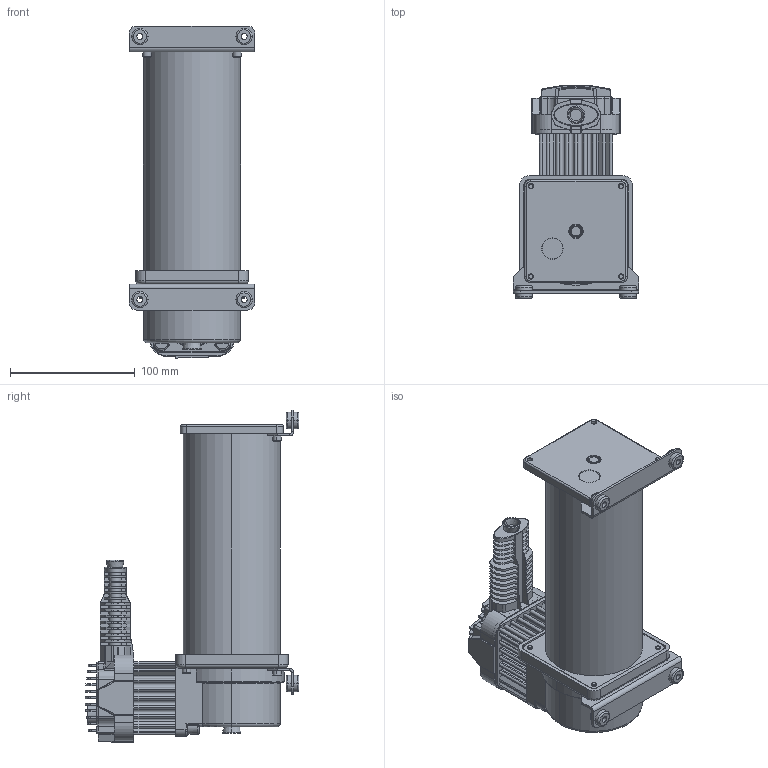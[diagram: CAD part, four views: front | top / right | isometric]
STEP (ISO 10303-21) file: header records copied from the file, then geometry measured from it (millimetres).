
FILE_DESCRIPTION (( 'STEP AP214' ), '1' );
FILE_NAME ('PLM-AP-LV-24VDC.STEP', '2015-11-05T14:40:32', ( '' ), ( '' ), 'SwSTEP 2.0', 'SolidWorks 2015', '' );
FILE_SCHEMA (( 'AUTOMOTIVE_DESIGN' ));
Length unit declared in the file: inch
Products named in the file (10): socket head cap screw_ai_HX-SHCS 0.164-32x0.5x0.5-S; socket head cap screw_ai_HX-SHCS 0.164-32x0.375x0.375-S; socket head cap screw_ai_HX-SHCS 0.125-44x0.125x0.125-N; flat washer type b regular_ai_Regular FW 0.125; PLM-AP-LV-24VDC Top; PLM-AP-LV-24VDC Front; PLM-AP-LV-24VDC Foot; PLM-AP-LV-24VDC Main Body; PLM-AP-LV-24VDC; socket head cap screw_ai_HX-SHCS 0.164-32x0.4375x0.4375-S
Assembly tree (19 placements, depth 2):
  PLM-AP-LV-24VDC
    PLM-AP-LV-24VDC Main Body
    PLM-AP-LV-24VDC Foot  x2
    PLM-AP-LV-24VDC Front
    PLM-AP-LV-24VDC Top
    flat washer type b regular_ai_Regular FW 0.125  x4
    socket head cap screw_ai_HX-SHCS 0.125-44x0.125x0.125-N  x4
    socket head cap screw_ai_HX-SHCS 0.164-32x0.375x0.375-S  x2
    socket head cap screw_ai_HX-SHCS 0.164-32x0.5x0.5-S  x2
    socket head cap screw_ai_HX-SHCS 0.164-32x0.4375x0.4375-S  x2
Bounding box: 100.33 x 171.41 x 266.12 mm (x, y, z)
Volume: 1502338.4 mm3; surface area: 182629 mm2
Topology: 29 solids, 29 shells, 1946 faces, 5082 edges, 3208 vertices
Faces by surface type: cylinder 683, plane 663, cone 404, torus 104, bspline 92
Entity records: 48662 total; most frequent: CARTESIAN_POINT 11252, DIRECTION 7933, ORIENTED_EDGE 7784, EDGE_CURVE 3892, AXIS2_PLACEMENT_3D 2914, VERTEX_POINT 2488, VECTOR 2105, LINE 2105
